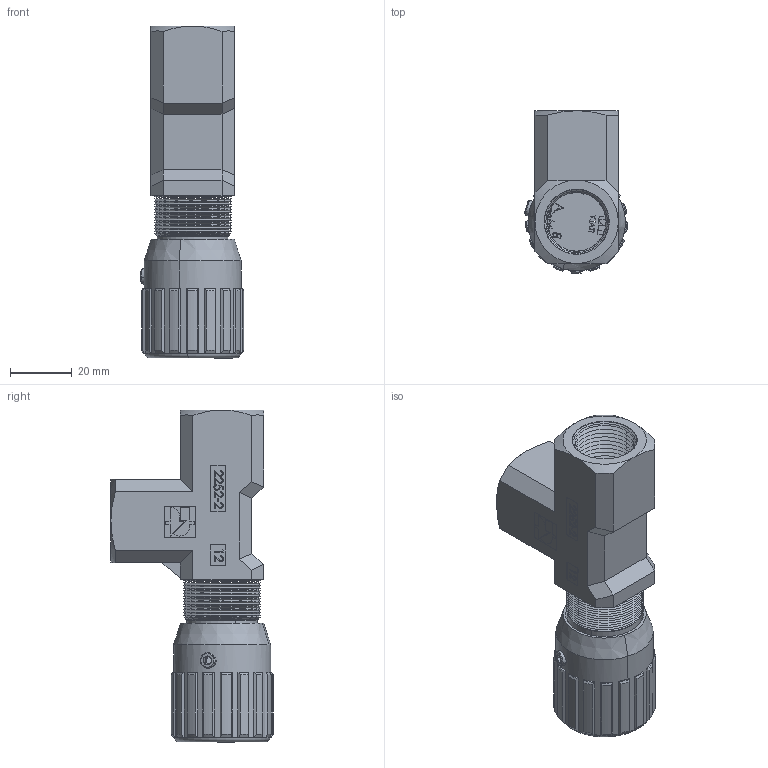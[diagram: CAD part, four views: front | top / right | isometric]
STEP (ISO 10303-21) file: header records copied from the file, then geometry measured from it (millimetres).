
FILE_DESCRIPTION (( 'STEP AP214' ), '1' );
FILE_NAME ('2252-2-12 VOLANTINO F-F.STEP', '2015-05-19T15:18:52', ( '' ), ( '' ), 'SwSTEP 2.0', 'SolidWorks 2014', '' );
FILE_SCHEMA (( 'AUTOMOTIVE_DESIGN' ));
Length unit declared in the file: millimetre
Products named in the file (1): 2252-2-12 VOLANTINO  F-F
Bounding box: 33.43 x 52.49 x 107.5 mm (x, y, z)
Surface area: 19789.5 mm2 (no closed solid volume)
Topology: 0 solids, 20 shells, 592 faces, 1916 edges, 1272 vertices
Faces by surface type: plane 300, cone 184, cylinder 63, bspline 43, torus 2
Entity records: 30369 total; most frequent: CARTESIAN_POINT 7541, ORIENTED_EDGE 3227, DIRECTION 3214, EDGE_CURVE 1916, VECTOR 1284, LINE 1284, VERTEX_POINT 1272, AXIS2_PLACEMENT_3D 965
